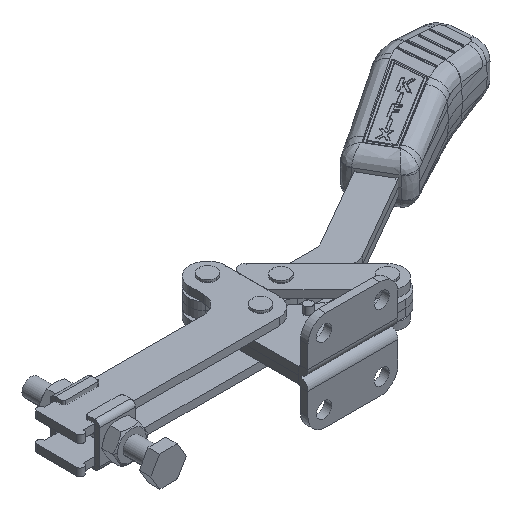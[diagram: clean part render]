
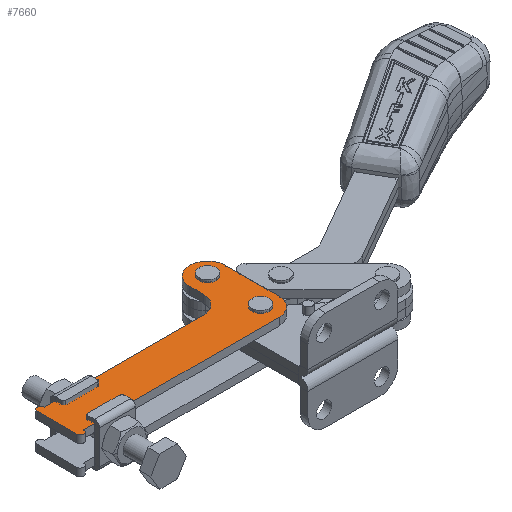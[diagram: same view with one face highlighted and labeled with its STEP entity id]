
A CAD part, isometric view. The second image highlights one B-rep face of the part: STEP entity #7660.
In plain terms, the highlighted planar face has unit normal (0, 0, 1).
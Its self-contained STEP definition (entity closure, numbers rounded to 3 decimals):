
#141 = CARTESIAN_POINT ( 'NONE',  ( -42.5, 11., 0. ) ) ;
#299 = DIRECTION ( 'NONE',  ( 0., 0., -1. ) ) ;
#425 = CARTESIAN_POINT ( 'NONE',  ( 60., 21., 0. ) ) ;
#590 = EDGE_LOOP ( 'NONE', ( #22081, #5802 ) ) ;
#837 = AXIS2_PLACEMENT_3D ( 'NONE', #11241, #299, #13074 ) ;
#1093 = DIRECTION ( 'NONE',  ( 0., 0., 1. ) ) ;
#1149 = VERTEX_POINT ( 'NONE', #21960 ) ;
#1261 = CARTESIAN_POINT ( 'NONE',  ( 66., -0.7, 0. ) ) ;
#1309 = AXIS2_PLACEMENT_3D ( 'NONE', #2246, #15022, #4085 ) ;
#1421 = CARTESIAN_POINT ( 'NONE',  ( 4., -11., 0. ) ) ;
#1772 = CARTESIAN_POINT ( 'NONE',  ( 74., -0.7, 0. ) ) ;
#1983 = DIRECTION ( 'NONE',  ( 0., 1., 0. ) ) ;
#2227 = FACE_BOUND ( 'NONE', #590, .T. ) ;
#2246 = CARTESIAN_POINT ( 'NONE',  ( 70., -1., 0. ) ) ;
#2379 = CARTESIAN_POINT ( 'NONE',  ( 66., 28.7, 0. ) ) ;
#2822 = EDGE_CURVE ( 'NONE', #23156, #11491, #19679, .T. ) ;
#2823 = LINE ( 'NONE', #15633, #3383 ) ;
#2853 = CIRCLE ( 'NONE', #19260, 4. ) ;
#3147 = CIRCLE ( 'NONE', #837, 10. ) ;
#3383 = VECTOR ( 'NONE', #4679, 1000. ) ;
#3463 = CIRCLE ( 'NONE', #6689, 4. ) ;
#3668 = ORIENTED_EDGE ( 'NONE', *, *, #20216, .T. ) ;
#3732 = DIRECTION ( 'NONE',  ( 0., 0., 1. ) ) ;
#3884 = EDGE_CURVE ( 'NONE', #10142, #16662, #2823, .T. ) ;
#4085 = DIRECTION ( 'NONE',  ( 1., 0., 0. ) ) ;
#4174 = EDGE_CURVE ( 'NONE', #11072, #7088, #22512, .T. ) ;
#4391 = CIRCLE ( 'NONE', #1309, 10. ) ;
#4463 = CARTESIAN_POINT ( 'NONE',  ( 60., 28.7, 0. ) ) ;
#4679 = DIRECTION ( 'NONE',  ( -1., 0., 0. ) ) ;
#5287 = CARTESIAN_POINT ( 'NONE',  ( -38.5, -11., 0. ) ) ;
#5473 = ORIENTED_EDGE ( 'NONE', *, *, #15912, .T. ) ;
#5581 = CARTESIAN_POINT ( 'NONE',  ( -40.5, -11., 0. ) ) ;
#5684 = CARTESIAN_POINT ( 'NONE',  ( 50., 11., 0. ) ) ;
#5755 = VECTOR ( 'NONE', #12342, 1000. ) ;
#5802 = ORIENTED_EDGE ( 'NONE', *, *, #2822, .F. ) ;
#6023 = AXIS2_PLACEMENT_3D ( 'NONE', #12011, #1093, #13866 ) ;
#6347 = CARTESIAN_POINT ( 'NONE',  ( 70., -0.7, 0. ) ) ;
#6426 = AXIS2_PLACEMENT_3D ( 'NONE', #10393, #23158, #12218 ) ;
#6689 = AXIS2_PLACEMENT_3D ( 'NONE', #14676, #3732, #16522 ) ;
#6977 = ORIENTED_EDGE ( 'NONE', *, *, #17981, .F. ) ;
#7088 = VERTEX_POINT ( 'NONE', #21594 ) ;
#7409 = CARTESIAN_POINT ( 'NONE',  ( -42.5, 11., 0. ) ) ;
#7410 = DIRECTION ( 'NONE',  ( 1., 0., 0. ) ) ;
#7530 = VECTOR ( 'NONE', #19141, 1000. ) ;
#7626 = AXIS2_PLACEMENT_3D ( 'NONE', #20486, #9566, #22319 ) ;
#7660 = ADVANCED_FACE ( 'NONE', ( #16798, #2227, #12477 ), #9487, .F. ) ;
#7751 = VECTOR ( 'NONE', #1983, 1000. ) ;
#7955 = VECTOR ( 'NONE', #9249, 1000. ) ;
#8117 = LINE ( 'NONE', #4463, #7530 ) ;
#8206 = DIRECTION ( 'NONE',  ( 1., 0., 0. ) ) ;
#8273 = CARTESIAN_POINT ( 'NONE',  ( 70., -0.7, 0. ) ) ;
#8421 = CARTESIAN_POINT ( 'NONE',  ( -38.5, 11., 0. ) ) ;
#8706 = CARTESIAN_POINT ( 'NONE',  ( 80., -1., 0. ) ) ;
#9249 = DIRECTION ( 'NONE',  ( 0., -1., 0. ) ) ;
#9290 = CARTESIAN_POINT ( 'NONE',  ( -40.5, 11., 0. ) ) ;
#9327 = AXIS2_PLACEMENT_3D ( 'NONE', #9290, #22057, #11111 ) ;
#9376 = VERTEX_POINT ( 'NONE', #18212 ) ;
#9487 = PLANE ( 'NONE',  #7626 ) ;
#9566 = DIRECTION ( 'NONE',  ( 0., 0., -1. ) ) ;
#9893 = EDGE_CURVE ( 'NONE', #21113, #1149, #19558, .T. ) ;
#10008 = VERTEX_POINT ( 'NONE', #5287 ) ;
#10045 = LINE ( 'NONE', #1421, #5755 ) ;
#10110 = DIRECTION ( 'NONE',  ( 1., 0., 0. ) ) ;
#10142 = VERTEX_POINT ( 'NONE', #5684 ) ;
#10393 = CARTESIAN_POINT ( 'NONE',  ( 70., 28.7, 0. ) ) ;
#10558 = CIRCLE ( 'NONE', #9327, 2. ) ;
#11072 = VERTEX_POINT ( 'NONE', #141 ) ;
#11111 = DIRECTION ( 'NONE',  ( -1., 0., 0. ) ) ;
#11241 = CARTESIAN_POINT ( 'NONE',  ( 50., 21., 0. ) ) ;
#11491 = VERTEX_POINT ( 'NONE', #12325 ) ;
#11591 = ORIENTED_EDGE ( 'NONE', *, *, #21808, .F. ) ;
#12011 = CARTESIAN_POINT ( 'NONE',  ( 70., 28.7, 0. ) ) ;
#12218 = DIRECTION ( 'NONE',  ( 1., 0., 0. ) ) ;
#12325 = CARTESIAN_POINT ( 'NONE',  ( 74., 28.7, 0. ) ) ;
#12342 = DIRECTION ( 'NONE',  ( 1., 0., 0. ) ) ;
#12346 = ORIENTED_EDGE ( 'NONE', *, *, #9893, .T. ) ;
#12477 = FACE_OUTER_BOUND ( 'NONE', #20195, .T. ) ;
#12592 = ORIENTED_EDGE ( 'NONE', *, *, #12892, .T. ) ;
#12892 = EDGE_CURVE ( 'NONE', #1149, #22160, #8117, .T. ) ;
#13074 = DIRECTION ( 'NONE',  ( -1., 0., 0. ) ) ;
#13566 = EDGE_CURVE ( 'NONE', #9376, #18680, #4391, .T. ) ;
#13610 = ORIENTED_EDGE ( 'NONE', *, *, #3884, .T. ) ;
#13866 = DIRECTION ( 'NONE',  ( 1., 0., 0. ) ) ;
#14676 = CARTESIAN_POINT ( 'NONE',  ( 70., 28.7, 0. ) ) ;
#15022 = DIRECTION ( 'NONE',  ( 0., 0., 1. ) ) ;
#15108 = CIRCLE ( 'NONE', #20122, 4. ) ;
#15633 = CARTESIAN_POINT ( 'NONE',  ( 50., 11., 0. ) ) ;
#15845 = EDGE_CURVE ( 'NONE', #7088, #10008, #22575, .T. ) ;
#15912 = EDGE_CURVE ( 'NONE', #22160, #10142, #3147, .T. ) ;
#16466 = ORIENTED_EDGE ( 'NONE', *, *, #13566, .T. ) ;
#16522 = DIRECTION ( 'NONE',  ( 1., 0., 0. ) ) ;
#16662 = VERTEX_POINT ( 'NONE', #8421 ) ;
#16798 = FACE_BOUND ( 'NONE', #20921, .T. ) ;
#17981 = EDGE_CURVE ( 'NONE', #21314, #18773, #15108, .T. ) ;
#18027 = LINE ( 'NONE', #22093, #7751 ) ;
#18212 = CARTESIAN_POINT ( 'NONE',  ( 70., -11., 0. ) ) ;
#18351 = DIRECTION ( 'NONE',  ( 0., 0., 1. ) ) ;
#18680 = VERTEX_POINT ( 'NONE', #8706 ) ;
#18773 = VERTEX_POINT ( 'NONE', #1772 ) ;
#19129 = DIRECTION ( 'NONE',  ( 0., 0., 1. ) ) ;
#19141 = DIRECTION ( 'NONE',  ( 0., -1., 0. ) ) ;
#19260 = AXIS2_PLACEMENT_3D ( 'NONE', #8273, #21045, #10110 ) ;
#19315 = ORIENTED_EDGE ( 'NONE', *, *, #4174, .T. ) ;
#19558 = CIRCLE ( 'NONE', #6426, 10. ) ;
#19670 = ORIENTED_EDGE ( 'NONE', *, *, #20044, .T. ) ;
#19679 = CIRCLE ( 'NONE', #6023, 4. ) ;
#20044 = EDGE_CURVE ( 'NONE', #10008, #9376, #10045, .T. ) ;
#20122 = AXIS2_PLACEMENT_3D ( 'NONE', #6347, #19129, #8206 ) ;
#20176 = EDGE_CURVE ( 'NONE', #11491, #23156, #3463, .T. ) ;
#20195 = EDGE_LOOP ( 'NONE', ( #22223, #19315, #21036, #19670, #16466, #3668, #12346, #12592, #5473, #13610 ) ) ;
#20216 = EDGE_CURVE ( 'NONE', #18680, #21113, #18027, .T. ) ;
#20486 = CARTESIAN_POINT ( 'NONE',  ( 2., 11., 0. ) ) ;
#20860 = AXIS2_PLACEMENT_3D ( 'NONE', #5581, #18351, #7410 ) ;
#20921 = EDGE_LOOP ( 'NONE', ( #11591, #6977 ) ) ;
#21036 = ORIENTED_EDGE ( 'NONE', *, *, #15845, .T. ) ;
#21045 = DIRECTION ( 'NONE',  ( 0., 0., 1. ) ) ;
#21113 = VERTEX_POINT ( 'NONE', #22491 ) ;
#21314 = VERTEX_POINT ( 'NONE', #1261 ) ;
#21594 = CARTESIAN_POINT ( 'NONE',  ( -42.5, -11., 0. ) ) ;
#21651 = EDGE_CURVE ( 'NONE', #16662, #11072, #10558, .T. ) ;
#21808 = EDGE_CURVE ( 'NONE', #18773, #21314, #2853, .T. ) ;
#21960 = CARTESIAN_POINT ( 'NONE',  ( 60., 28.7, 0. ) ) ;
#22057 = DIRECTION ( 'NONE',  ( 0., 0., 1. ) ) ;
#22081 = ORIENTED_EDGE ( 'NONE', *, *, #20176, .F. ) ;
#22093 = CARTESIAN_POINT ( 'NONE',  ( 80., -1., 0. ) ) ;
#22160 = VERTEX_POINT ( 'NONE', #425 ) ;
#22223 = ORIENTED_EDGE ( 'NONE', *, *, #21651, .T. ) ;
#22319 = DIRECTION ( 'NONE',  ( -1., 0., 0. ) ) ;
#22491 = CARTESIAN_POINT ( 'NONE',  ( 80., 28.7, 0. ) ) ;
#22512 = LINE ( 'NONE', #7409, #7955 ) ;
#22575 = CIRCLE ( 'NONE', #20860, 2. ) ;
#23156 = VERTEX_POINT ( 'NONE', #2379 ) ;
#23158 = DIRECTION ( 'NONE',  ( 0., 0., 1. ) ) ;
